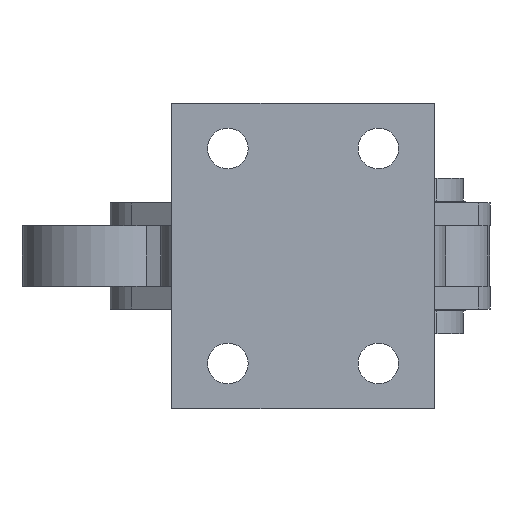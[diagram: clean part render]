
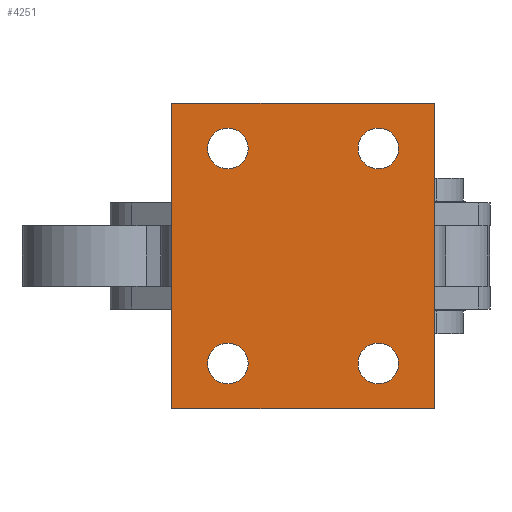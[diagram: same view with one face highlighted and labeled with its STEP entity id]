
A CAD part, front view. The second image highlights one B-rep face of the part: STEP entity #4251.
In plain terms, the highlighted planar face has unit normal (0, -1, 0).
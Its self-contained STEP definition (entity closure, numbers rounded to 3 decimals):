
#127 = VERTEX_POINT ( 'NONE', #6155 ) ;
#368 = VERTEX_POINT ( 'NONE', #6107 ) ;
#812 = ORIENTED_EDGE ( 'NONE', *, *, #5821, .T. ) ;
#813 = ORIENTED_EDGE ( 'NONE', *, *, #5825, .T. ) ;
#814 = ORIENTED_EDGE ( 'NONE', *, *, #5801, .F. ) ;
#815 = ORIENTED_EDGE ( 'NONE', *, *, #5802, .T. ) ;
#816 = ORIENTED_EDGE ( 'NONE', *, *, #5816, .F. ) ;
#817 = ORIENTED_EDGE ( 'NONE', *, *, #5823, .F. ) ;
#818 = ORIENTED_EDGE ( 'NONE', *, *, #5818, .F. ) ;
#856 = ORIENTED_EDGE ( 'NONE', *, *, #5884, .T. ) ;
#857 = ORIENTED_EDGE ( 'NONE', *, *, #5826, .T. ) ;
#859 = ORIENTED_EDGE ( 'NONE', *, *, #5822, .T. ) ;
#860 = ORIENTED_EDGE ( 'NONE', *, *, #5887, .T. ) ;
#861 = ORIENTED_EDGE ( 'NONE', *, *, #5876, .T. ) ;
#1157 = EDGE_LOOP ( 'NONE', ( #857, #856 ) ) ;
#1164 = EDGE_LOOP ( 'NONE', ( #859, #860 ) ) ;
#1165 = EDGE_LOOP ( 'NONE', ( #813, #815 ) ) ;
#1216 = EDGE_LOOP ( 'NONE', ( #812, #861 ) ) ;
#1235 = EDGE_LOOP ( 'NONE', ( #814, #818, #817, #816 ) ) ;
#1371 = VERTEX_POINT ( 'NONE', #6741 ) ;
#1374 = VERTEX_POINT ( 'NONE', #6738 ) ;
#1377 = VERTEX_POINT ( 'NONE', #6746 ) ;
#1452 = AXIS2_PLACEMENT_3D ( 'NONE', #6891, #6890, #6900 ) ;
#1891 = FACE_BOUND ( 'NONE', #1216, .T. ) ;
#1894 = FACE_BOUND ( 'NONE', #1157, .T. ) ;
#1896 = FACE_OUTER_BOUND ( 'NONE', #1235, .T. ) ;
#1898 = FACE_BOUND ( 'NONE', #1165, .T. ) ;
#1899 = FACE_BOUND ( 'NONE', #1164, .T. ) ;
#2526 = CIRCLE ( 'NONE', #4422, 4.25 ) ;
#2529 = LINE ( 'NONE', #5357, #2532 ) ;
#2532 = VECTOR ( 'NONE', #5377, 1000. ) ;
#2555 = LINE ( 'NONE', #4895, #2564 ) ;
#2557 = LINE ( 'NONE', #4924, #2560 ) ;
#2560 = VECTOR ( 'NONE', #4925, 1000. ) ;
#2561 = CIRCLE ( 'NONE', #4426, 4.25 ) ;
#2564 = VECTOR ( 'NONE', #4939, 1000. ) ;
#2567 = CIRCLE ( 'NONE', #4425, 4.25 ) ;
#2568 = LINE ( 'NONE', #4977, #2571 ) ;
#2569 = CIRCLE ( 'NONE', #4428, 4.25 ) ;
#2571 = VECTOR ( 'NONE', #4914, 1000. ) ;
#2573 = CIRCLE ( 'NONE', #4429, 4.25 ) ;
#2639 = CIRCLE ( 'NONE', #4453, 4.25 ) ;
#2648 = CIRCLE ( 'NONE', #4459, 4.25 ) ;
#2650 = CIRCLE ( 'NONE', #4458, 4.25 ) ;
#4251 = ADVANCED_FACE ( 'NONE', ( #1894, #1899, #1891, #1898, #1896 ), #6895, .F. ) ;
#4422 = AXIS2_PLACEMENT_3D ( 'NONE', #5382, #5383, #5384 ) ;
#4425 = AXIS2_PLACEMENT_3D ( 'NONE', #4978, #4980, #4979 ) ;
#4426 = AXIS2_PLACEMENT_3D ( 'NONE', #4984, #4985, #4986 ) ;
#4428 = AXIS2_PLACEMENT_3D ( 'NONE', #5015, #5009, #5016 ) ;
#4429 = AXIS2_PLACEMENT_3D ( 'NONE', #5022, #5024, #5023 ) ;
#4453 = AXIS2_PLACEMENT_3D ( 'NONE', #5742, #5466, #5461 ) ;
#4458 = AXIS2_PLACEMENT_3D ( 'NONE', #5535, #5536, #5465 ) ;
#4459 = AXIS2_PLACEMENT_3D ( 'NONE', #5424, #5418, #5761 ) ;
#4671 = VERTEX_POINT ( 'NONE', #5264 ) ;
#4679 = VERTEX_POINT ( 'NONE', #5270 ) ;
#4686 = VERTEX_POINT ( 'NONE', #5279 ) ;
#4712 = VERTEX_POINT ( 'NONE', #5309 ) ;
#4715 = VERTEX_POINT ( 'NONE', #5312 ) ;
#4728 = VERTEX_POINT ( 'NONE', #5330 ) ;
#4733 = VERTEX_POINT ( 'NONE', #5338 ) ;
#4895 = CARTESIAN_POINT ( 'NONE',  ( -27.5, -8., -32. ) ) ;
#4914 = DIRECTION ( 'NONE',  ( 0., 0., -1. ) ) ;
#4924 = CARTESIAN_POINT ( 'NONE',  ( -27.5, -8., 32. ) ) ;
#4925 = DIRECTION ( 'NONE',  ( 1., 0., 0. ) ) ;
#4939 = DIRECTION ( 'NONE',  ( -1., 0., 0. ) ) ;
#4977 = CARTESIAN_POINT ( 'NONE',  ( 27.5, -8., -32. ) ) ;
#4978 = CARTESIAN_POINT ( 'NONE',  ( 15.75, -8., -22.5 ) ) ;
#4979 = DIRECTION ( 'NONE',  ( 0., 0., 1. ) ) ;
#4980 = DIRECTION ( 'NONE',  ( 0., 1., 0. ) ) ;
#4984 = CARTESIAN_POINT ( 'NONE',  ( 15.75, -8., 22.5 ) ) ;
#4985 = DIRECTION ( 'NONE',  ( 0., 1., 0. ) ) ;
#4986 = DIRECTION ( 'NONE',  ( 0., 0., 1. ) ) ;
#5009 = DIRECTION ( 'NONE',  ( 0., 1., 0. ) ) ;
#5015 = CARTESIAN_POINT ( 'NONE',  ( -15.75, -8., -22.5 ) ) ;
#5016 = DIRECTION ( 'NONE',  ( 0., 0., 1. ) ) ;
#5022 = CARTESIAN_POINT ( 'NONE',  ( -15.75, -8., 22.5 ) ) ;
#5023 = DIRECTION ( 'NONE',  ( 0., 0., 1. ) ) ;
#5024 = DIRECTION ( 'NONE',  ( 0., 1., 0. ) ) ;
#5264 = CARTESIAN_POINT ( 'NONE',  ( 15.75, -8., -18.25 ) ) ;
#5270 = CARTESIAN_POINT ( 'NONE',  ( -15.75, -8., -26.75 ) ) ;
#5279 = CARTESIAN_POINT ( 'NONE',  ( -27.5, -8., 32. ) ) ;
#5309 = CARTESIAN_POINT ( 'NONE',  ( 27.5, -8., -32. ) ) ;
#5312 = CARTESIAN_POINT ( 'NONE',  ( -15.75, -8., -18.25 ) ) ;
#5330 = CARTESIAN_POINT ( 'NONE',  ( 27.5, -8., 32. ) ) ;
#5338 = CARTESIAN_POINT ( 'NONE',  ( 15.75, -8., -26.75 ) ) ;
#5357 = CARTESIAN_POINT ( 'NONE',  ( -27.5, -8., -32. ) ) ;
#5377 = DIRECTION ( 'NONE',  ( 0., 0., 1. ) ) ;
#5382 = CARTESIAN_POINT ( 'NONE',  ( -15.75, -8., -22.5 ) ) ;
#5383 = DIRECTION ( 'NONE',  ( 0., 1., 0. ) ) ;
#5384 = DIRECTION ( 'NONE',  ( 0., 0., 1. ) ) ;
#5418 = DIRECTION ( 'NONE',  ( 0., 1., 0. ) ) ;
#5424 = CARTESIAN_POINT ( 'NONE',  ( 15.75, -8., 22.5 ) ) ;
#5461 = DIRECTION ( 'NONE',  ( 0., 0., 1. ) ) ;
#5465 = DIRECTION ( 'NONE',  ( 0., 0., 1. ) ) ;
#5466 = DIRECTION ( 'NONE',  ( 0., 1., 0. ) ) ;
#5535 = CARTESIAN_POINT ( 'NONE',  ( -15.75, -8., 22.5 ) ) ;
#5536 = DIRECTION ( 'NONE',  ( 0., 1., 0. ) ) ;
#5742 = CARTESIAN_POINT ( 'NONE',  ( 15.75, -8., -22.5 ) ) ;
#5761 = DIRECTION ( 'NONE',  ( 0., 0., 1. ) ) ;
#5801 = EDGE_CURVE ( 'NONE', #127, #4686, #2529, .T. ) ;
#5802 = EDGE_CURVE ( 'NONE', #4679, #4715, #2526, .T. ) ;
#5816 = EDGE_CURVE ( 'NONE', #4686, #4728, #2557, .T. ) ;
#5818 = EDGE_CURVE ( 'NONE', #4712, #127, #2555, .T. ) ;
#5821 = EDGE_CURVE ( 'NONE', #4671, #4733, #2567, .T. ) ;
#5822 = EDGE_CURVE ( 'NONE', #368, #1371, #2561, .T. ) ;
#5823 = EDGE_CURVE ( 'NONE', #4728, #4712, #2568, .T. ) ;
#5825 = EDGE_CURVE ( 'NONE', #4715, #4679, #2569, .T. ) ;
#5826 = EDGE_CURVE ( 'NONE', #1374, #1377, #2573, .T. ) ;
#5876 = EDGE_CURVE ( 'NONE', #4733, #4671, #2639, .T. ) ;
#5884 = EDGE_CURVE ( 'NONE', #1377, #1374, #2650, .T. ) ;
#5887 = EDGE_CURVE ( 'NONE', #1371, #368, #2648, .T. ) ;
#6107 = CARTESIAN_POINT ( 'NONE',  ( 15.75, -8., 26.75 ) ) ;
#6155 = CARTESIAN_POINT ( 'NONE',  ( -27.5, -8., -32. ) ) ;
#6738 = CARTESIAN_POINT ( 'NONE',  ( -15.75, -8., 26.75 ) ) ;
#6741 = CARTESIAN_POINT ( 'NONE',  ( 15.75, -8., 18.25 ) ) ;
#6746 = CARTESIAN_POINT ( 'NONE',  ( -15.75, -8., 18.25 ) ) ;
#6890 = DIRECTION ( 'NONE',  ( 0., 1., 0. ) ) ;
#6891 = CARTESIAN_POINT ( 'NONE',  ( -27.5, -8., 32. ) ) ;
#6895 = PLANE ( 'NONE',  #1452 ) ;
#6900 = DIRECTION ( 'NONE',  ( 0., 0., 1. ) ) ;
